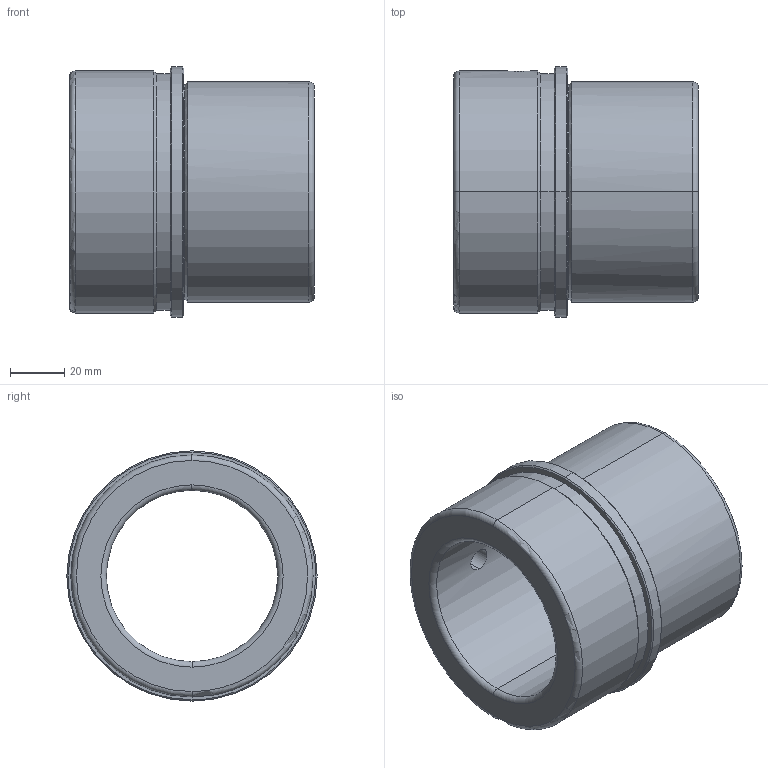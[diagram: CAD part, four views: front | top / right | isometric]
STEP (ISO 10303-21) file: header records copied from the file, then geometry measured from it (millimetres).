
FILE_DESCRIPTION(('CATIA V5 STEP Exchange'),'2;1');
FILE_NAME('C:\Users\Utente\Desktop\IO LAVORO\3D X SITO CF\X SITO\CF 641\CF 641 63 x 90.stp','2020-12-26T14:41:04+00:00',('none'),('none'),'CATIA Version 5 Release 20 GA (IN-10)','CATIA V5 STEP AP203','none');
FILE_SCHEMA(('CONFIG_CONTROL_DESIGN'));
Length unit declared in the file: millimetre
Products named in the file (1): CF 641 63 x 90
Bounding box: 90 x 92 x 92 mm (x, y, z)
Volume: 226386 mm3; surface area: 49205.1 mm2
Topology: 1 solids, 1 shells, 37 faces, 125 edges, 93 vertices
Faces by surface type: cylinder 14, cone 10, torus 8, plane 5
Entity records: 1656 total; most frequent: CARTESIAN_POINT 533, ORIENTED_EDGE 250, DIRECTION 178, EDGE_CURVE 125, AXIS2_PLACEMENT_3D 118, VERTEX_POINT 93, CIRCLE 80, EDGE_LOOP 44
